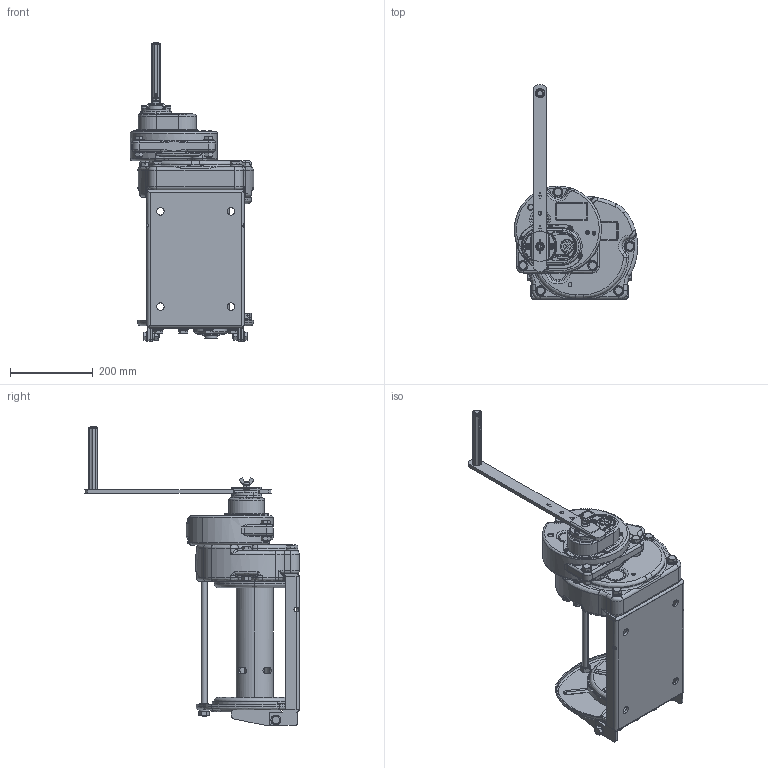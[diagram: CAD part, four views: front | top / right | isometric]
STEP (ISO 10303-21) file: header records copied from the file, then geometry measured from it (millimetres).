
FILE_DESCRIPTION( (''), '2;1');
FILE_NAME ('GM-30-SIC.stp','2023-12-21T17:18:54',(''),(''),'spGate 19.8.2 (****-****-****-****)','','');
FILE_SCHEMA (('AUTOMOTIVE_DESIGN'));
Length unit declared in the file: millimetre
Products named in the file (3): Assembly; GM-30-SIC-prt0; GM-30-SIC-prt1
Assembly tree (2 placements, depth 2):
  Assembly
    GM-30-SIC-prt0
    GM-30-SIC-prt1
Bounding box: 297.46 x 518.43 x 723.3 mm (x, y, z)
Volume: 10613321.9 mm3; surface area: 1153664.7 mm2
Topology: 2 solids, 2 shells, 3256 faces, 8394 edges, 5216 vertices
Faces by surface type: plane 1548, cylinder 1005, bspline 621, sphere 82
Entity records: 179481 total; most frequent: CARTESIAN_POINT 36873, ORIENTED_EDGE 16584, DIRECTION 15600, COLOUR_RGB 11550, PRESENTATION_STYLE_ASSIGNMENT 11550, STYLED_ITEM 11550, EDGE_CURVE 8292, DRAUGHTING_PRE_DEFINED_CURVE_FONT 8292
